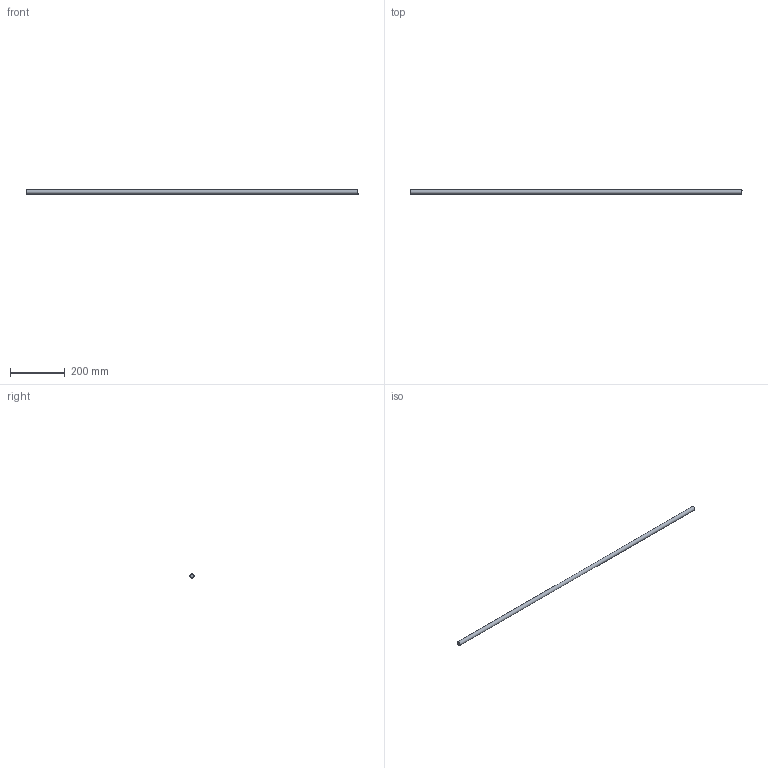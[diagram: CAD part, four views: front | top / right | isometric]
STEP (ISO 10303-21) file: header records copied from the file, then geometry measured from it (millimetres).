
FILE_DESCRIPTION(/* description */ (''),/* implementation_level */ '2;1');
FILE_NAME(/* name */ 'Pos110-Massieve as 15-S235JRG2-40st',/* time_stamp */ '2024-08-06T13:49:48+02:00',/* author */ (''),/* organization */ (''),/* preprocessor_version */ 'ST-DEVELOPER v16.5',/* originating_system */ 'HiCAD 2024 2901.2 Build 361',/* authorisation */ '');
FILE_SCHEMA (('AUTOMOTIVE_DESIGN { 1 0 10303 214 1 1 1 1 }'));
Length unit declared in the file: millimetre
Products named in the file (1): Pos110-Massieve as 15-S235JRG2-40st
Bounding box: 1210 x 15 x 15 mm (x, y, z)
Volume: 213824.6 mm3; surface area: 57373.3 mm2
Topology: 1 solids, 1 shells, 3 faces, 3 edges, 2 vertices
Faces by surface type: plane 2, cylinder 1
Full cylindrical faces by diameter (mm): 15 x1
Entity records: 92 total; most frequent: DIRECTION 10, CARTESIAN_POINT 7, PRESENTATION_STYLE_ASSIGNMENT 5, COLOUR_RGB 5, AXIS2_PLACEMENT_3D 5, DRAUGHTING_PRE_DEFINED_CURVE_FONT 4, CURVE_STYLE 4, OVER_RIDING_STYLED_ITEM 4
